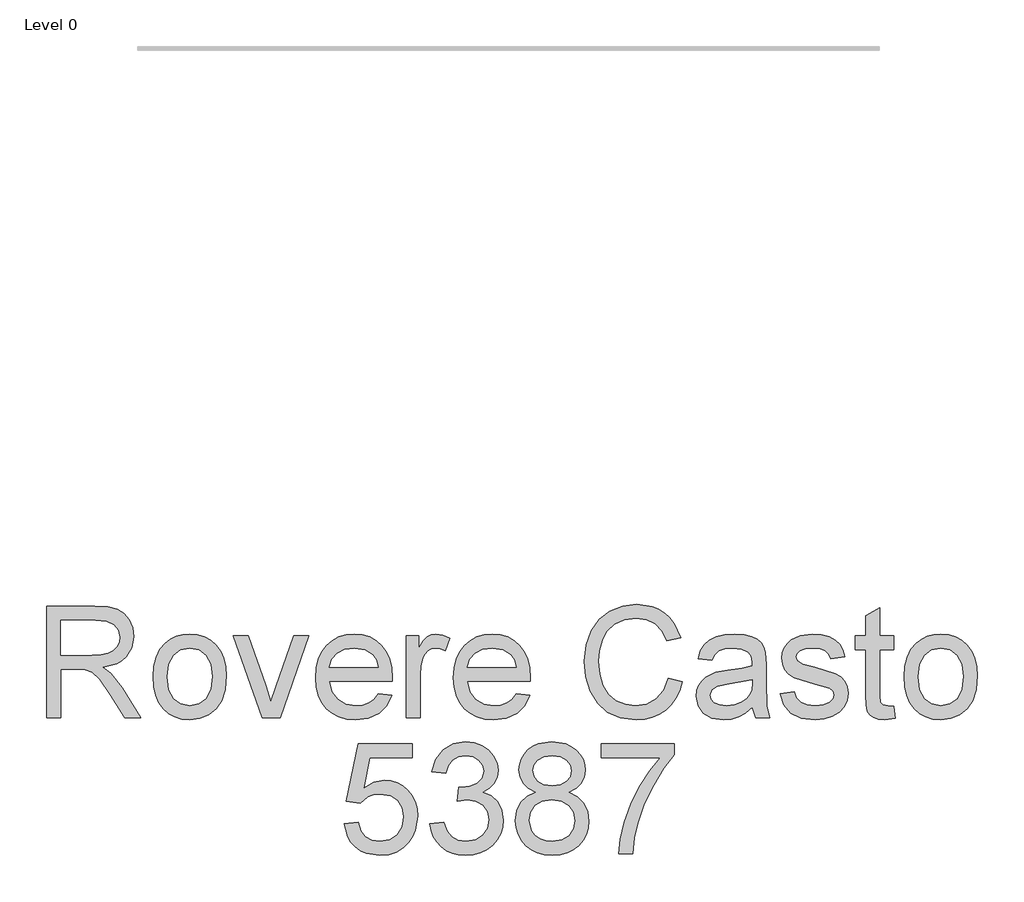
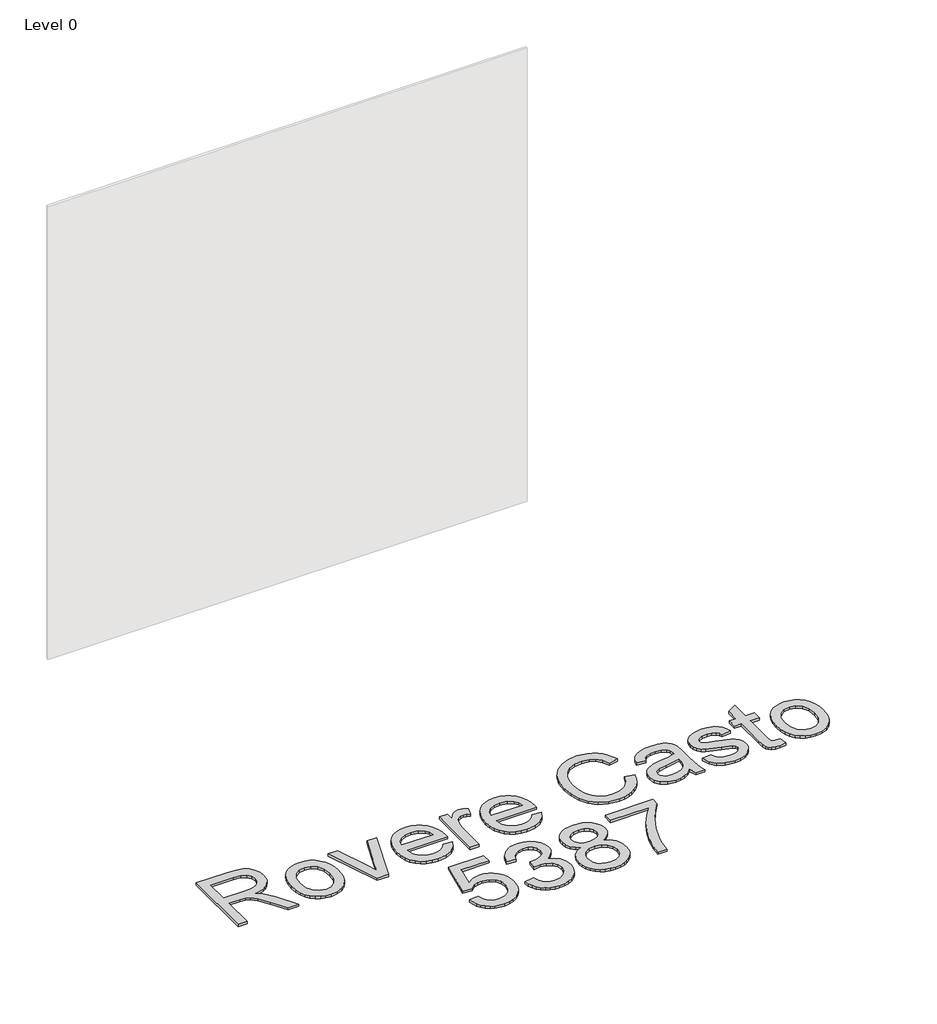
# One storey, part 7 of 16: 1 proxy.
"""IFC4 building model written with IfcOpenShell, lengths in millimetres."""

from ifc_helpers import new_model, si_unit, origin, origin_with_axes, place, context, project, spatial, polyline, outline, extrude, element, save

model = new_model("IFC4")

# Units and contexts
model_context = context("Model", 3, world=origin())
ifc_project = project(units=[si_unit("LENGTHUNIT", "METRE", prefix="MILLI")], contexts=[model_context])

# Site, building, storey
site = spatial("IfcSite", under=ifc_project)
building = spatial("IfcBuilding", under=site)
storey = spatial("IfcBuildingStorey", under=building, Name="Level 0", Elevation=0.0)

# Proxy
placement = place(None, origin())
element("IfcBuildingElementProxy", 1, Name="300mm Arial", ObjectType="300mm Arial", at=placement, inside=storey, context=model_context, shape_type="SweptSolid", body=[
    extrude(outline(polyline([(-10696.1593392, -7002.860494), (-10696.1593392, -6701.4915635), (-10566.2969949, -6701.4915635), (-10531.3941906, -6703.5241116), (-10506.0011359, -6709.6217556), (-10487.4414892, -6720.8789447), (-10473.0389091, -6738.3901276), (-10463.795874, -6760.1043624), (-10460.7148623, -6783.9707069), (-10465.8192249, -6813.6587839), (-10481.132313, -6838.2700893), (-10492.7320922, -6848.2994722), (-10507.1139789, -6856.3147012), (-10544.2240752, -6866.3026974), (-10522.8133431, -6882.4159288), (-10492.2791375, -6921.1906911), (-10442.0264569, -7002.860494), (-10485.8044143, -7002.860494), (-10525.020635, -6940.3941312), (-10553.3475487, -6899.0441949), (-10573.2499646, -6879.509661), (-10591.1658178, -6872.3359621), (-10613.0180083, -6871.0115869), (-10658.4882229, -6871.0115869), (-10658.4882229, -7002.860494), (-10696.1593392, -7002.860494)]), holes=[polyline([(-10658.4882229, -6833.3404706), (-10574.1696696, -6833.3404706), (-10549.9538372, -6832.0068984), (-10531.1642643, -6828.0061817), (-10517.0192016, -6821.0716061), (-10506.7368999, -6810.9364571), (-10500.4737089, -6798.6767896), (-10498.3859786, -6785.3686584), (-10502.3683012, -6766.9929528), (-10514.315269, -6752.1857025), (-10534.8706754, -6742.4184355), (-10564.6783141, -6739.1626798), (-10658.4882229, -6739.1626798), (-10658.4882229, -6833.3404706)])]), origin_with_axes(), (0.0, 0.0, 1.0), 10.0),
    extrude(outline(polyline([(-10408.9170773, -6892.2015898), (-10406.8799308, -6863.5389839), (-10400.7684912, -6838.8403064), (-10390.5827584, -6818.1055575), (-10376.3227326, -6801.334737), (-10361.9661377, -6790.6155754), (-10346.1196208, -6782.9590314), (-10328.7831817, -6778.3651049), (-10309.9568206, -6776.8337961), (-10289.1737872, -6778.698498), (-10270.381915, -6784.2926036), (-10253.5812041, -6793.6161129), (-10238.7716546, -6806.669026), (-10226.6844318, -6823.0098843), (-10218.0507012, -6842.1972296), (-10212.8704629, -6864.2310619), (-10211.1437167, -6889.1113811), (-10214.1971373, -6927.1687735), (-10223.357399, -6956.1394806), (-10238.3577873, -6977.8353213), (-10258.9315879, -6994.0681143), (-10283.3681494, -7004.1940662), (-10309.9568206, -7007.5693835), (-10331.0433568, -7005.7115794), (-10350.0099729, -7000.1381672), (-10366.856669, -6990.8491468), (-10381.5834451, -6977.8445183), (-10393.5419092, -6961.3450108), (-10402.0836693, -6941.5713536), (-10407.2087253, -6918.5235466), (-10408.9170773, -6892.2015898)]), holes=[polyline([(-10371.245961, -6892.1280134), (-10366.8865594, -6926.2214773), (-10353.8083545, -6950.5108861), (-10334.1266677, -6965.0514219), (-10309.9568206, -6969.8982672), (-10285.8973382, -6965.0238308), (-10266.2524396, -6950.4005215), (-10253.1742347, -6925.789216), (-10248.814833, -6890.950791), (-10253.2018258, -6857.8506085), (-10266.3628042, -6833.8922936), (-10286.0352939, -6819.3517577), (-10309.9568206, -6814.5049125), (-10334.1266677, -6819.3333636), (-10353.8083545, -6833.8187172), (-10366.8865594, -6858.0529436), (-10371.245961, -6892.1280134)])]), origin_with_axes(), (0.0, 0.0, 1.0), 10.0),
    extrude(outline(polyline([(-10114.4643284, -7002.860494), (-10192.3081586, -6781.5426857), (-10152.4297503, -6781.5426857), (-10105.2672785, -6914.1273567), (-10091.0670335, -6958.7146546), (-10077.1610941, -6916.6289543), (-10029.7043167, -6781.5426857), (-9989.8259084, -6781.5426857), (-10066.7132454, -7002.860494), (-10114.4643284, -7002.860494)])), origin_with_axes(), (0.0, 0.0, 1.0), 10.0),
    extrude(outline(polyline([(-9801.9117853, -6936.9360404), (-9764.976433, -6941.64493), (-9778.2845642, -6969.4752029), (-9799.5205523, -6990.2789297), (-9828.2061509, -7003.2467701), (-9863.8631133, -7007.5693835), (-9887.2374156, -7005.7046817), (-9908.064135, -7000.1105761), (-9926.3432716, -6990.7870668), (-9942.0748255, -6977.7341537), (-9954.7253676, -6961.3151204), (-9963.7614691, -6941.8932503), (-9969.18313, -6919.4685435), (-9970.9903503, -6894.0409998), (-9969.1647359, -6867.7512327), (-9963.6878927, -6844.5792656), (-9954.5598207, -6824.5250983), (-9941.7805199, -6807.5887309), (-9926.0903528, -6794.133447), (-9908.2296819, -6784.5225298), (-9888.1985073, -6778.7559796), (-9865.9968289, -6776.8337961), (-9844.5102211, -6778.751381), (-9825.0791539, -6784.5041357), (-9807.7036275, -6794.0920602), (-9792.3836416, -6807.5151545), (-9779.8779531, -6824.4147337), (-9770.9453184, -6844.4321128), (-9765.5857375, -6867.5672917), (-9763.7992106, -6893.8202706), (-9764.0199398, -6903.9738137), (-9933.319234, -6903.9738137), (-9926.7985256, -6932.1719686), (-9911.6509845, -6952.902119), (-9889.7895969, -6965.6492302), (-9863.1273493, -6969.8982672), (-9843.0777806, -6967.9300985), (-9826.191997, -6962.0255925), (-9812.4699986, -6951.8168672), (-9801.9117853, -6936.9360404)]), holes=[polyline([(-9933.319234, -6866.3026974), (-9801.4703269, -6866.3026974), (-9806.5654925, -6846.4002814), (-9816.5534887, -6832.1632482), (-9838.5160438, -6818.9194964), (-9866.1439817, -6814.5049125), (-9891.5370364, -6818.0273826), (-9912.5339013, -6828.5947929), (-9927.1296194, -6845.0667092), (-9933.319234, -6866.3026974)])]), origin_with_axes(), (0.0, 0.0, 1.0), 10.0),
    extrude(outline(polyline([(-9726.1280943, -7002.860494), (-9726.1280943, -6781.5426857), (-9693.1658675, -6781.5426857), (-9693.1658675, -6814.2841833), (-9680.9889735, -6795.3014723), (-9669.7685726, -6784.1178596), (-9658.5113836, -6778.654812), (-9646.2241249, -6776.8337961), (-9627.4621432, -6779.7400639), (-9608.4058558, -6788.4588672), (-9620.9874201, -6822.2304343), (-9634.2311719, -6816.4362929), (-9647.4749237, -6814.5049125), (-9658.7229157, -6816.3627165), (-9668.7752912, -6821.9361288), (-9676.8962863, -6830.8020848), (-9682.3501369, -6842.5375205), (-9686.9302677, -6863.5803706), (-9688.456978, -6886.5362071), (-9688.456978, -7002.860494), (-9726.1280943, -7002.860494)])), origin_with_axes(), (0.0, 0.0, 1.0), 10.0),
    extrude(outline(polyline([(-9429.9095118, -6936.9360404), (-9392.9741595, -6941.64493), (-9406.2822906, -6969.4752029), (-9427.5182788, -6990.2789297), (-9456.2038774, -7003.2467701), (-9491.8608398, -7007.5693835), (-9515.235142, -7005.7046817), (-9536.0618615, -7000.1105761), (-9554.3409981, -6990.7870668), (-9570.0725519, -6977.7341537), (-9582.7230941, -6961.3151204), (-9591.7591956, -6941.8932503), (-9597.1808565, -6919.4685435), (-9598.9880768, -6894.0409998), (-9597.1624624, -6867.7512327), (-9591.6856192, -6844.5792656), (-9582.5575472, -6824.5250983), (-9569.7782463, -6807.5887309), (-9554.0880793, -6794.133447), (-9536.2274084, -6784.5225298), (-9516.1962337, -6778.7559796), (-9493.9945553, -6776.8337961), (-9472.5079476, -6778.751381), (-9453.0768804, -6784.5041357), (-9435.7013539, -6794.0920602), (-9420.3813681, -6807.5151545), (-9407.8756795, -6824.4147337), (-9398.9430448, -6844.4321128), (-9393.583464, -6867.5672917), (-9391.7969371, -6893.8202706), (-9392.0176663, -6903.9738137), (-9561.3169605, -6903.9738137), (-9554.7962521, -6932.1719686), (-9539.6487109, -6952.902119), (-9517.7873234, -6965.6492302), (-9491.1250758, -6969.8982672), (-9471.075507, -6967.9300985), (-9454.1897235, -6962.0255925), (-9440.467725, -6951.8168672), (-9429.9095118, -6936.9360404)]), holes=[polyline([(-9561.3169605, -6866.3026974), (-9429.4680534, -6866.3026974), (-9434.563219, -6846.4002814), (-9444.5512152, -6832.1632482), (-9466.5137703, -6818.9194964), (-9494.1417081, -6814.5049125), (-9519.5347629, -6818.0273826), (-9540.5316277, -6828.5947929), (-9555.1273459, -6845.0667092), (-9561.3169605, -6866.3026974)])]), origin_with_axes(), (0.0, 0.0, 1.0), 10.0),
    extrude(outline(polyline([(-9019.7946636, -6895.733257), (-8982.1235473, -6905.4453417), (-8989.5777562, -6928.872527), (-8999.5059715, -6949.3428607), (-9011.9081933, -6966.856343), (-9026.7844215, -6981.4129737), (-9043.7989637, -6992.856403), (-9062.6161278, -7001.0302811), (-9083.2359136, -7005.9346079), (-9105.6583212, -7007.5693835), (-9149.3535052, -7002.6213707), (-9184.0539744, -6987.7773322), (-9210.6518427, -6963.5523028), (-9230.0392238, -6930.4613173), (-9241.875827, -6891.5577963), (-9245.8213614, -6849.8951604), (-9241.3607922, -6805.9516561), (-9227.9790846, -6768.0046283), (-9206.3752145, -6737.2588905), (-9177.2481575, -6714.9192564), (-9142.7040381, -6701.3168196), (-9104.8489808, -6696.782674), (-9063.5450298, -6702.6503918), (-9045.5762936, -6709.9850391), (-9029.3963836, -6720.2535453), (-9015.2720143, -6733.1845974), (-9003.4699, -6748.5068825), (-8986.8324368, -6786.3251516), (-9024.5035531, -6795.3014723), (-9037.5633639, -6767.8298843), (-9055.4056407, -6748.9851291), (-9078.2511126, -6738.086625), (-9106.3205088, -6734.4537903), (-9138.6757303, -6738.4820981), (-9165.2552044, -6750.5670217), (-9185.4243348, -6769.439368), (-9198.548525, -6793.8299443), (-9205.7498151, -6821.4026999), (-9208.1502451, -6849.821584), (-9205.3083567, -6884.6232207), (-9196.7826914, -6914.7159679), (-9182.2513526, -6938.9501944), (-9161.3924435, -6956.1762688), (-9136.3856649, -6966.4677676), (-9109.4107176, -6969.8982672), (-9077.966004, -6965.2261659), (-9051.7636089, -6951.2098619), (-9031.9807546, -6927.996508), (-9019.7946636, -6895.733257)])), origin_with_axes(), (0.0, 0.0, 1.0), 10.0),
    extrude(outline(polyline([(-8793.7679657, -6974.6071568), (-8811.7665923, -6990.0398064), (-8830.2986478, -7000.1381672), (-8849.7871965, -7005.7115794), (-8870.6553027, -7007.5693835), (-8902.1368044, -7003.0996173), (-8925.3593554, -6989.6903186), (-8939.6791621, -6969.3280501), (-8944.4524309, -6943.9993748), (-8942.6498092, -6928.3827841), (-8937.2419438, -6914.2009331), (-8928.9002196, -6902.0608273), (-8918.2960211, -6892.5694718), (-8891.918882, -6880.2086368), (-8859.3245373, -6874.5432541), (-8820.8072924, -6868.5835657), (-8793.9886949, -6861.5938078), (-8793.7679657, -6853.2060983), (-8796.3615338, -6836.3938912), (-8804.142238, -6825.3942195), (-8821.5430564, -6817.2272392), (-8845.7864798, -6814.5049125), (-8868.2272815, -6816.3167313), (-8883.8990545, -6821.7521878), (-8894.5860265, -6831.8045633), (-8902.0724251, -6847.4671392), (-8939.7435414, -6842.7582497), (-8933.2044389, -6822.156858), (-8923.446369, -6805.9700502), (-8909.5588237, -6793.590821), (-8890.631295, -6784.4121652), (-8867.4823205, -6778.7283884), (-8840.9304375, -6776.8337961), (-8815.4638064, -6778.5076592), (-8795.2762819, -6783.5292485), (-8780.0551643, -6791.0800264), (-8769.487754, -6800.3414556), (-8762.479602, -6811.7917827), (-8757.9362594, -6825.9092543), (-8756.0968494, -6858.8714811), (-8756.0968494, -6905.7396473), (-8754.183863, -6971.1858542), (-8746.6790703, -7002.860494), (-8784.3501866, -7002.860494), (-8793.7679657, -6974.6071568)]), holes=[polyline([(-8793.7679657, -6899.2649241), (-8854.5420713, -6910.8164188), (-8886.9524751, -6916.9232599), (-8901.6309667, -6926.8560738), (-8906.7813146, -6941.3506244), (-8903.9762144, -6952.5526311), (-8895.5609138, -6961.7312869), (-8881.7193537, -6967.8565221), (-8862.6354752, -6969.8982672), (-8842.4019655, -6967.64499), (-8824.5229005, -6960.8851583), (-8810.0283499, -6950.9247533), (-8799.9483832, -6939.069756), (-8795.478617, -6926.8560738), (-8793.9886949, -6909.933502), (-8793.7679657, -6899.2649241)])]), origin_with_axes(), (0.0, 0.0, 1.0), 10.0),
    extrude(outline(polyline([(-8718.4257331, -6936.9360404), (-8680.7546168, -6932.2271509), (-8674.8133226, -6948.3403823), (-8663.3170102, -6960.1861825), (-8646.1921034, -6967.470246), (-8623.3650256, -6969.8982672), (-8600.8138592, -6967.6725811), (-8584.9581453, -6960.9955229), (-8575.5771544, -6951.3202265), (-8572.4501574, -6940.0998256), (-8575.5955485, -6930.4981055), (-8585.0317217, -6923.1772538), (-8623.8064839, -6912.4350996), (-8680.5338876, -6894.0042116), (-8694.8904825, -6884.7427824), (-8705.2923459, -6872.4831149), (-8711.6107191, -6858.0069584), (-8713.7168436, -6842.0960621), (-8712.0245864, -6827.5003439), (-8706.9478149, -6814.0266659), (-8698.9463815, -6802.2084568), (-8688.4801387, -6792.5791455), (-8664.5310208, -6781.4323211), (-8632.120617, -6776.8337961), (-8607.6012821, -6778.6824032), (-8586.2825204, -6784.2282242), (-8569.1392195, -6792.9286334), (-8557.1462664, -6804.2410048), (-8549.2000153, -6819.0022698), (-8544.1968202, -6838.0493601), (-8581.8679365, -6842.7582497), (-8586.6228113, -6830.9032524), (-8596.0313933, -6821.972917), (-8610.1856531, -6816.3719136), (-8629.1775611, -6814.5049125), (-8650.8090224, -6816.2891401), (-8665.2299966, -6821.6418232), (-8673.3417946, -6829.3673451), (-8676.0457273, -6838.2700893), (-8671.5575669, -6849.2329728), (-8657.5044747, -6857.5471059), (-8625.0572827, -6865.5669334), (-8569.7646189, -6883.2988455), (-8555.1597036, -6891.7785255), (-8544.0864556, -6903.3852025), (-8537.1058947, -6918.1556646), (-8534.7790411, -6936.1267001), (-8537.5105649, -6954.7047408), (-8545.7051364, -6972.1791356), (-8559.0500557, -6987.1795239), (-8577.2326234, -6998.3355454), (-8599.1951785, -7005.260924), (-8623.8800603, -7007.5693835), (-8661.8638763, -7003.1180114), (-8689.5837847, -6989.763895), (-8708.088249, -6967.654187), (-8718.4257331, -6936.9360404)])), origin_with_axes(), (0.0, 0.0, 1.0), 10.0),
    extrude(outline(polyline([(-8412.3479131, -6971.4433716), (-8407.6390236, -7003.96414), (-8435.8187844, -7007.5693835), (-8453.9001845, -7006.005885), (-8467.3830596, -7001.3153896), (-8476.9112033, -6994.0865084), (-8483.128409, -6984.9078526), (-8486.5497115, -6969.1441091), (-8487.6901457, -6942.1599648), (-8487.6901457, -6819.213802), (-8515.943483, -6819.213802), (-8515.943483, -6781.5426857), (-8487.6901457, -6781.5426857), (-8487.6901457, -6727.758338), (-8450.0190294, -6705.6118419), (-8450.0190294, -6781.5426857), (-8412.3479131, -6781.5426857), (-8412.3479131, -6819.213802), (-8450.0190294, -6819.213802), (-8450.0190294, -6941.0563188), (-8448.0324667, -6960.4804881), (-8441.5945317, -6967.3598814), (-8428.7554501, -6969.8982672), (-8412.3479131, -6971.4433716)])), origin_with_axes(), (0.0, 0.0, 1.0), 10.0),
    extrude(outline(polyline([(-8384.0945759, -6892.2015898), (-8382.0574293, -6863.5389839), (-8375.9459897, -6838.8403064), (-8365.760257, -6818.1055575), (-8351.5002311, -6801.334737), (-8337.1436363, -6790.6155754), (-8321.2971193, -6782.9590314), (-8303.9606803, -6778.3651049), (-8285.1343192, -6776.8337961), (-8264.3512857, -6778.698498), (-8245.5594136, -6784.2926036), (-8228.7587027, -6793.6161129), (-8213.9491531, -6806.669026), (-8201.8619303, -6823.0098843), (-8193.2281997, -6842.1972296), (-8188.0479614, -6864.2310619), (-8186.3212153, -6889.1113811), (-8189.3746358, -6927.1687735), (-8198.5348975, -6956.1394806), (-8213.5352859, -6977.8353213), (-8234.1090865, -6994.0681143), (-8258.545648, -7004.1940662), (-8285.1343192, -7007.5693835), (-8306.2208553, -7005.7115794), (-8325.1874714, -7000.1381672), (-8342.0341675, -6990.8491468), (-8356.7609436, -6977.8445183), (-8368.7194078, -6961.3450108), (-8377.2611678, -6941.5713536), (-8382.3862239, -6918.5235466), (-8384.0945759, -6892.2015898)]), holes=[polyline([(-8346.4234596, -6892.1280134), (-8342.0640579, -6926.2214773), (-8328.985853, -6950.5108861), (-8309.3041663, -6965.0514219), (-8285.1343192, -6969.8982672), (-8261.0748367, -6965.0238308), (-8241.4299382, -6950.4005215), (-8228.3517332, -6925.789216), (-8223.9923316, -6890.950791), (-8228.3793244, -6857.8506085), (-8241.5403028, -6833.8922936), (-8261.2127925, -6819.3517577), (-8285.1343192, -6814.5049125), (-8309.3041663, -6819.3333636), (-8328.985853, -6833.8187172), (-8342.0640579, -6858.0529436), (-8346.4234596, -6892.1280134)])]), origin_with_axes(), (0.0, 0.0, 1.0), 10.0),
    extrude(outline(polyline([(-9893.2936729, -7288.7338254), (-9855.6225566, -7284.0249358), (-9848.7063751, -7306.6404815), (-9836.6398456, -7322.8364863), (-9819.4781506, -7332.5761621), (-9797.2764722, -7335.8227207), (-9770.2739337, -7331.3069693), (-9750.040424, -7317.7597148), (-9737.4036774, -7296.7444558), (-9733.1914286, -7269.8246908), (-9737.136963, -7244.4776213), (-9748.9735662, -7225.0902402), (-9768.7932087, -7212.7845875), (-9796.687861, -7208.6827032), (-9814.9623991, -7210.3197781), (-9829.7604523, -7215.2310027), (-9850.9136671, -7232.2271509), (-9888.5847834, -7227.5182614), (-9855.6225566, -7072.1249066), (-9709.6469809, -7072.1249066), (-9709.6469809, -7109.7960229), (-9825.1619274, -7109.7960229), (-9841.2751588, -7192.790201), (-9814.3645908, -7176.4562404), (-9786.1664359, -7171.0115869), (-9767.8206207, -7172.6992456), (-9750.969326, -7177.7622215), (-9735.612552, -7186.2005148), (-9721.7502986, -7198.0141254), (-9710.2746796, -7212.4810848), (-9702.0778089, -7228.8794248), (-9697.1596864, -7247.2091452), (-9695.5203123, -7267.470246), (-9701.4248183, -7305.1413624), (-9708.8054508, -7321.9351754), (-9719.1383364, -7337.3678251), (-9734.7917153, -7353.1729553), (-9753.0570563, -7364.4623341), (-9773.9343596, -7371.2359613), (-9797.423625, -7373.4938371), (-9834.4233566, -7367.6904986), (-9850.1020274, -7360.4363255), (-9863.8999015, -7350.2804832), (-9875.380119, -7337.7288093), (-9884.1058201, -7323.2871418), (-9893.2936729, -7288.7338254)])), origin_with_axes(), (0.0, 0.0, 1.0), 10.0),
    extrude(outline(polyline([(-9662.5580855, -7288.7338254), (-9624.8869692, -7284.0249358), (-9616.4532745, -7307.6981422), (-9604.1016365, -7323.6826149), (-9587.22505, -7332.7876943), (-9565.2165096, -7335.8227207), (-9539.3911935, -7331.6472601), (-9519.4519894, -7319.1208782), (-9506.7048783, -7300.4324728), (-9502.4558412, -7277.7709419), (-9506.6680901, -7256.2590422), (-9519.3048366, -7238.8122386), (-9538.4347004, -7227.2515469), (-9562.1263008, -7223.397983), (-9588.5402281, -7227.5182614), (-9584.3463734, -7189.8471451), (-9578.3131086, -7190.2886035), (-9555.7435482, -7187.5846708), (-9535.5652208, -7179.4728728), (-9521.3281876, -7165.7508744), (-9516.5825098, -7146.2163404), (-9520.0222065, -7129.9467592), (-9530.3412965, -7116.7489926), (-9546.0866459, -7108.0025982), (-9565.8051208, -7105.0871334), (-9585.5603839, -7108.0301893), (-9601.7104035, -7116.8593572), (-9613.5010215, -7131.574637), (-9620.1780797, -7152.1760288), (-9657.849196, -7147.4671392), (-9646.7575538, -7113.6403898), (-9627.0206848, -7088.3852908), (-9600.0181463, -7072.6583355), (-9567.129496, -7067.4160171), (-9543.4470925, -7070.0003881), (-9521.6960696, -7077.7535011), (-9503.3571521, -7089.9855775), (-9489.9110652, -7106.0068384), (-9481.6613115, -7124.4653175), (-9478.9113935, -7144.0090485), (-9481.5233557, -7162.2192072), (-9489.3592422, -7178.7371088), (-9502.3086884, -7192.8085951), (-9520.2613298, -7203.6795081), (-9496.6800939, -7213.2076518), (-9479.2056991, -7229.4312477), (-9468.3899685, -7251.4673793), (-9464.7847249, -7278.4331295), (-9466.5873467, -7297.5445992), (-9471.995212, -7315.1477526), (-9481.0083209, -7331.2425899), (-9493.6266733, -7345.829111), (-9508.9995422, -7357.9324287), (-9526.2762004, -7366.5776555), (-9545.4566479, -7371.7647917), (-9566.5408848, -7373.4938371), (-9585.5971721, -7372.0177105), (-9602.9612023, -7367.589331), (-9618.6329753, -7360.2086985), (-9632.6124911, -7349.875813), (-9644.3341312, -7337.1976797), (-9653.232277, -7322.781304), (-9659.3069284, -7306.6266859), (-9662.5580855, -7288.7338254)])), origin_with_axes(), (0.0, 0.0, 1.0), 10.0),
    extrude(outline(polyline([(-9376.9345045, -7202.7965913), (-9397.1036349, -7192.8637774), (-9411.2578946, -7179.3992964), (-9419.618013, -7162.6790597), (-9422.4047191, -7142.9789789), (-9420.8872058, -7127.6153071), (-9416.3346662, -7113.5300252), (-9408.7471, -7100.7231332), (-9398.1245074, -7089.1946312), (-9384.9773246, -7079.6664875), (-9369.8159879, -7072.8606706), (-9333.4508526, -7067.4160171), (-9296.8649882, -7072.9894293), (-9281.5381046, -7079.9561946), (-9268.1885867, -7089.709666), (-9257.372856, -7101.4634957), (-9249.6473341, -7114.4313361), (-9245.012021, -7128.613187), (-9243.4669166, -7144.0090485), (-9246.2168345, -7163.0745329), (-9254.4665883, -7179.509661), (-9268.3081483, -7192.8913686), (-9287.8334852, -7202.7965913), (-9264.6477225, -7214.7435591), (-9247.771136, -7232.3375155), (-9237.4796372, -7254.732332), (-9234.0491375, -7281.0818799), (-9235.7505918, -7299.8714528), (-9240.8549545, -7317.0975272), (-9249.3622256, -7332.7601031), (-9261.2724052, -7346.8591806), (-9275.9600938, -7358.5118428), (-9292.7998922, -7366.8351729), (-9311.7918002, -7371.829171), (-9332.9358179, -7373.4938371), (-9354.0798355, -7371.8222732), (-9373.0717435, -7366.8075818), (-9389.9115419, -7358.4497627), (-9404.5992305, -7346.748816), (-9416.5094101, -7332.5508703), (-9425.0166812, -7316.702054), (-9430.1210439, -7299.2023674), (-9431.8224982, -7280.0518103), (-9428.2540428, -7252.6813898), (-9417.5486767, -7230.1670117), (-9400.258223, -7213.2812282), (-9376.9345045, -7202.7965913)]), holes=[polyline([(-9384.7336028, -7144.0826249), (-9381.3950737, -7160.52695), (-9371.3794863, -7173.6603373), (-9354.9811464, -7182.268776), (-9332.4943595, -7185.1382555), (-9310.5318043, -7182.2871701), (-9294.3817848, -7173.7339137), (-9284.4489709, -7161.0419848), (-9281.1380329, -7145.774882), (-9284.5593355, -7129.9283651), (-9294.8232432, -7116.822569), (-9311.1939919, -7108.0209923), (-9332.9358179, -7105.0871334), (-9354.8155995, -7107.9566129), (-9371.1587571, -7116.5650516), (-9381.3398914, -7129.1834041), (-9384.7336028, -7144.0826249)]), polyline([(-9394.1513818, -7278.7274351), (-9387.8605997, -7307.0911369), (-9379.1509935, -7319.2588339), (-9365.603739, -7328.317928), (-9349.380143, -7333.9465226), (-9332.6415123, -7335.8227207), (-9307.0001372, -7331.8771864), (-9287.7599088, -7320.0405832), (-9275.7301676, -7302.1155329), (-9271.7202539, -7279.9046575), (-9275.8589263, -7257.316703), (-9288.2749436, -7238.9961796), (-9307.9566304, -7226.8560738), (-9333.892311, -7222.8093718), (-9359.1750012, -7226.8008915), (-9378.2220915, -7238.7754504), (-9390.1690593, -7256.7464859), (-9394.1513818, -7278.7274351)])]), origin_with_axes(), (0.0, 0.0, 1.0), 10.0),
    extrude(outline(polyline([(-9201.0869108, -7109.7960229), (-9201.0869108, -7072.1249066), (-9003.3135502, -7072.1249066), (-9003.3135502, -7102.5855358), (-9031.5025081, -7138.2608923), (-9059.4155544, -7183.6299393), (-9084.036057, -7234.5540045), (-9102.3473833, -7286.8944154), (-9111.323704, -7326.0554538), (-9116.3268991, -7368.7849475), (-9153.9980154, -7368.7849475), (-9149.9237223, -7329.9550029), (-9139.0252182, -7283.8042066), (-9121.5968087, -7234.8850983), (-9097.9327993, -7187.7502177), (-9070.3048615, -7145.1402856), (-9040.9846665, -7109.7960229), (-9201.0869108, -7109.7960229)])), origin_with_axes(), (0.0, 0.0, 1.0), 10.0),
])

save(model, "model.ifc")
